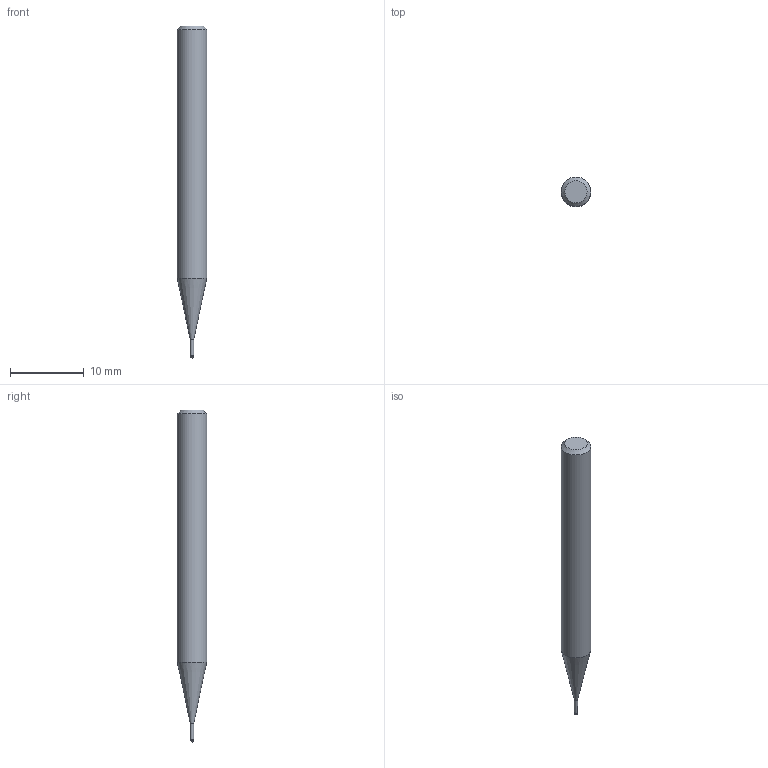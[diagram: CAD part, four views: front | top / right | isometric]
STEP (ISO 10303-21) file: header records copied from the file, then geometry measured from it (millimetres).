
FILE_DESCRIPTION((''),'2;1');
FILE_NAME('C:\Users\nsx150\AppData\Local\Temp\Mastercam 2021\AP8FW4WOPM\TEMP.step','2024-10-16T18:40:13',(''),(''),'STEP Write','Mastercam 2021 ... CNC Software, Inc.','');
FILE_SCHEMA(('AUTOMOTIVE_DESIGN'));
Length unit declared in the file: millimetre
Products named in the file (1): None
Bounding box: 4 x 4 x 45 mm (x, y, z)
Volume: 467.8 mm3; surface area: 501.6 mm2
Topology: 2 solids, 2 shells, 9 faces, 14 edges, 8 vertices
Faces by surface type: plane 3, cylinder 3, cone 2, sphere 1
Full cylindrical faces by diameter (mm): 0.46 x1, 0.5 x1, 4 x1
Entity records: 211 total; most frequent: DIRECTION 36, CARTESIAN_POINT 25, AXIS2_PLACEMENT_3D 18, ORIENTED_EDGE 14, EDGE_LOOP 14, STYLED_ITEM 12, ADVANCED_FACE 9, FACE_BOUND 8
